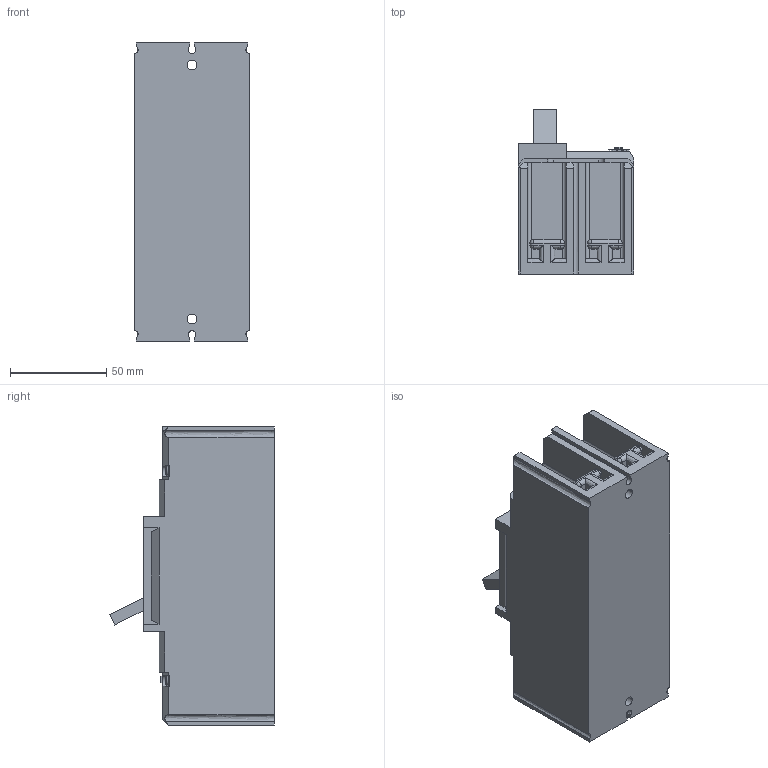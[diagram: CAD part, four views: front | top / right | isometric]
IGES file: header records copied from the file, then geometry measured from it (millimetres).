
Start section:  PTC IGES file: 18-metasol-mccb-125af-2p.igs
Global section: file name: 18-metasol-mccb-125af-2p.igs; native system: Pro/ENGINEER by Parametric Technology Corporation; preprocessor: 2010280; author: mgkimb; organization: Unknown; date: 20131029.143105; units: millimetre
Bounding box: 60 x 85.7 x 155 mm (x, y, z)
Surface area: 62561.2 mm2 (no closed solid volume)
Topology: 0 solids, 0 shells, 814 faces, 4252 edges, 4252 vertices
Faces by surface type: bspline 586, revolution 228
